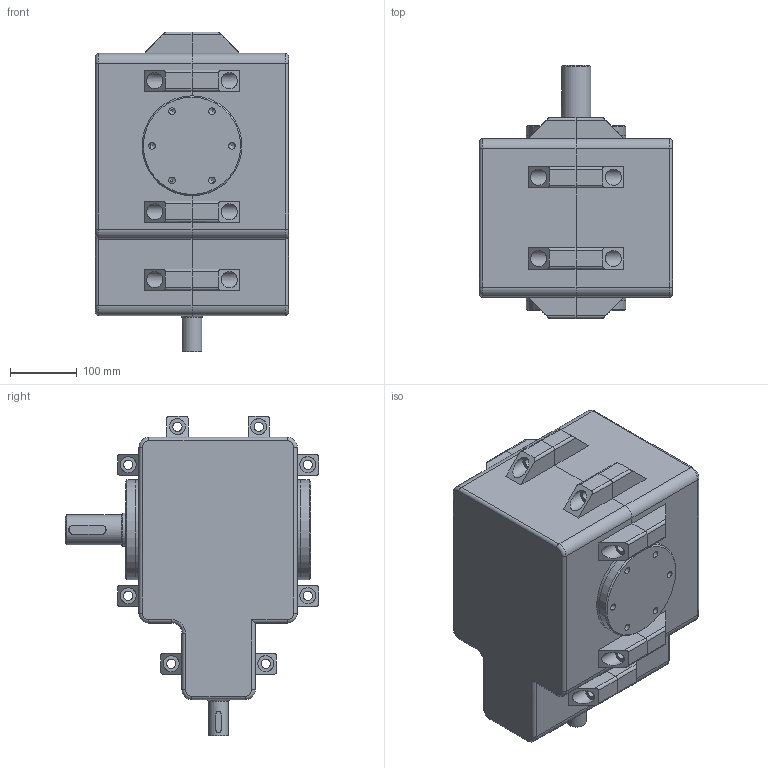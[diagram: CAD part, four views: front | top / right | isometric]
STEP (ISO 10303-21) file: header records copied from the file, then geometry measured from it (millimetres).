
FILE_DESCRIPTION(/* description */ ('','CAx-IF Rec.Pracs.---Representation and Presentation of Product Manufacturing Information (PMI)---4.0---2014-10-13'),/* implementation_level */ '2;1');
FILE_NAME(/* name */ 'Assieme_riduttore_conico.stp',/* time_stamp */ '2026-05-10T11:24:34+02:00',/* author */ ('R5800u'),/* organization */ (''),/* preprocessor_version */ 'ST-DEVELOPER v20',/* originating_system */ 'Autodesk Inventor 2025',/* authorisation */ '');
FILE_SCHEMA (('AP242_MANAGED_MODEL_BASED_3D_ENGINEERING_MIM_LF { 1 0 10303 442 1 1 4 }'));
Length unit declared in the file: millimetre
Products named in the file (19): Assieme_riduttore_conico; Ingranaggi conici; Ingranaggio conico1; Ingranaggio conico2; DIN 720 - 33109 - 45 x 80 x 26; Connessione a chiavetta; DIN 981 - KM 9; ISO 2982-2 - 45 x 56; Connessione a chiavetta_1; albero_corona; DIN 720 - 33210 - 50 x 90 x 32; DIN 988 - 70 x 90 x 2; Connessione a chiavetta_2; distanziale_corona; Connessione a chiavetta_3; carter_a; carter_a_MIR; blocchi_albero_carter_chiuso; blocchi_albero_carter
Assembly tree (21 placements, depth 3):
  Assieme_riduttore_conico
    Ingranaggi conici
      Ingranaggio conico1
      Ingranaggio conico2
    DIN 720 - 33109 - 45 x 80 x 26  x2
    Connessione a chiavetta
    DIN 981 - KM 9
    ISO 2982-2 - 45 x 56
    Connessione a chiavetta_1
    albero_corona
    DIN 720 - 33210 - 50 x 90 x 32  x2
    DIN 988 - 70 x 90 x 2  x2
    Connessione a chiavetta_2
    distanziale_corona
    Connessione a chiavetta_3
    carter_a
    carter_a_MIR
    blocchi_albero_carter_chiuso
    blocchi_albero_carter
Bounding box: 290 x 380 x 480.32 mm (x, y, z)
Volume: 11235757.4 mm3; surface area: 1649179.4 mm2
Topology: 20 solids, 22 shells, 1331 faces, 3230 edges, 1926 vertices
Faces by surface type: cone 548, plane 319, cylinder 251, bspline 148, torus 57, sphere 8
Full cylindrical faces by diameter (mm): 10.106 x18, 13.835 x16, 24 x16, 30 x1, 36 x1, 38 x1, 43.376 x1, 45 x6, 50 x7, 52 x1, 55.616 x2, 58.077 x2, 60 x1, 60.483 x1, 61.811 x2, 65.482 x2, 66 x1, 68 x1, 70 x2, 80 x2, 90 x6, 100 x1, 150 x2
Entity records: 44044 total; most frequent: CARTESIAN_POINT 13153, DIRECTION 6224, ORIENTED_EDGE 5708, EDGE_CURVE 2855, AXIS2_PLACEMENT_3D 2667, VERTEX_POINT 1720, CIRCLE 1410, EDGE_LOOP 1299
